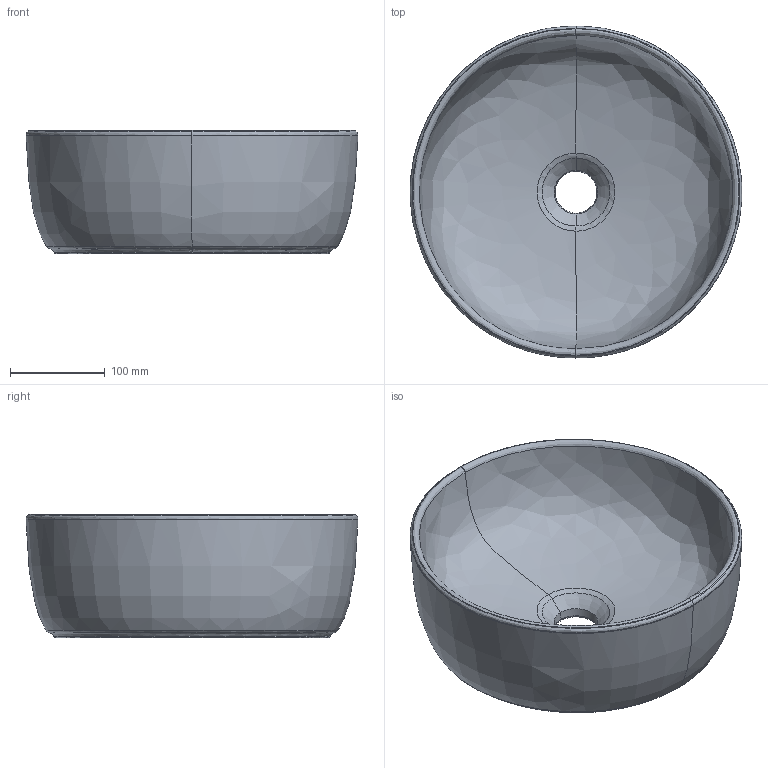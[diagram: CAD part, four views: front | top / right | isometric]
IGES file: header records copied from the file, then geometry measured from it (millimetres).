
Global section: file name: 510013; native system: Autodesk Inventor 2023; preprocessor: unknown; author: JANAN; date: 20241002.131344; units: millimetre
Bounding box: 349.79 x 350 x 129.96 mm (x, y, z)
Volume: 4115476.2 mm3; surface area: 372543.4 mm2
Topology: 1 solids, 1 shells, 51 faces, 103 edges, 57 vertices
Faces by surface type: bspline 51
